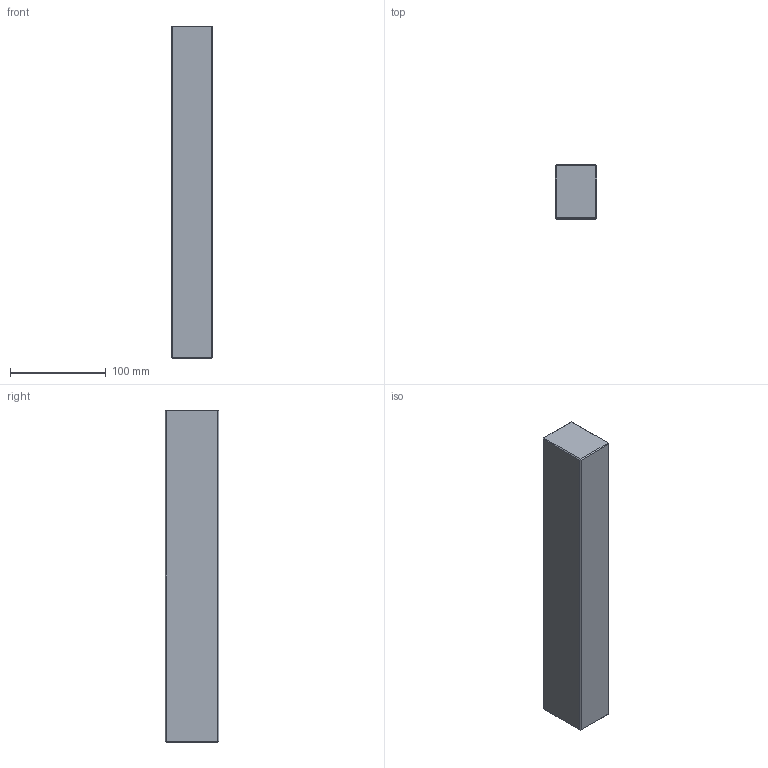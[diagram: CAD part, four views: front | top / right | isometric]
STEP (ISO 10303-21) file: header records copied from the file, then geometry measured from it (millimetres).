
FILE_DESCRIPTION (( 'STEP AP214' ), '1' );
FILE_NAME ('ESP-P-346X346x56.STEP', '2020-04-08T10:54:58', ( 'August' ), ( '' ), 'SwSTEP 2.0', 'SolidWorks 2018', '' );
FILE_SCHEMA (( 'AUTOMOTIVE_DESIGN' ));
Length unit declared in the file: millimetre
Products named in the file (1): ESP-P-346X346x56
Bounding box: 43 x 56 x 346 mm (x, y, z)
Volume: 832283.3 mm3; surface area: 72278.3 mm2
Topology: 1 solids, 1 shells, 26 faces, 48 edges, 24 vertices
Faces by surface type: plane 26
Entity records: 634 total; most frequent: DIRECTION 102, CARTESIAN_POINT 99, ORIENTED_EDGE 96, VECTOR 48, EDGE_CURVE 48, LINE 48, AXIS2_PLACEMENT_3D 27, ADVANCED_FACE 26
